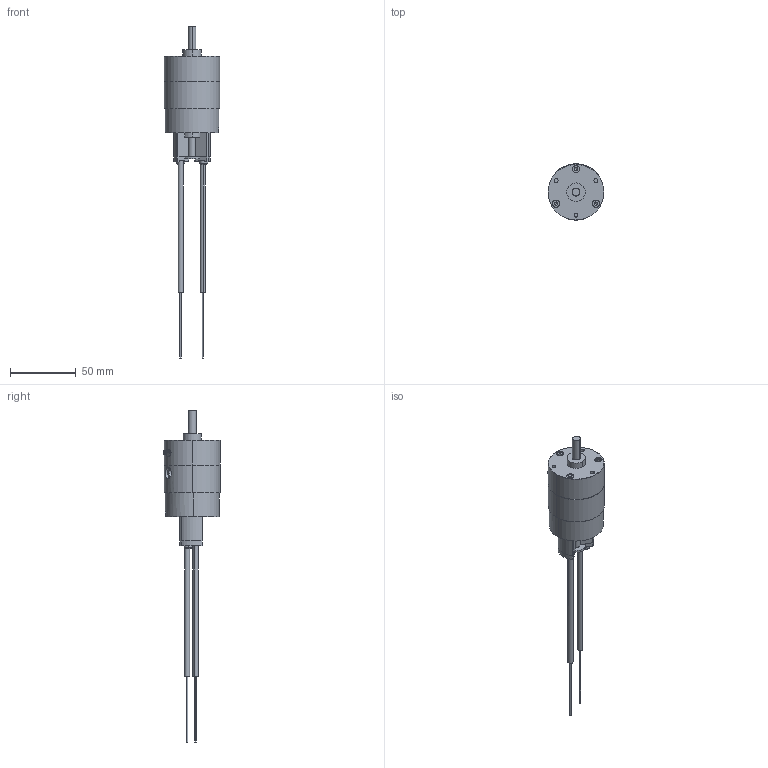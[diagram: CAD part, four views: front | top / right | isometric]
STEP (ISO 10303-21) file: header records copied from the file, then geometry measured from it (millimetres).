
FILE_DESCRIPTION (( 'STEP AP203' ), '1' );
FILE_NAME ('PROA10S-#-#-#-FR.STEP', '2016-02-04T06:59:48', ( 'Sam Lin' ), ( '' ), 'SwSTEP 2.0', 'SolidWorks 2013', '' );
FILE_SCHEMA (( 'CONFIG_CONTROL_DESIGN' ));
Length unit declared in the file: metre
Products named in the file (13): PROA10S-#-#-#-FR; PROA10S-#-# (6); PROA10S-#-# (2); mark-PROA10S; PROA10S-#-#-#-FR (2); PROA10S-#-#-#-FR (1); PROA10S-#-# (3); PROA10S-#-#-#-FR (3); PROA10S-#-# (4); PROA10S-#-#-#-FR (5); PROA10S-#-# (1); PROA10S-#-#-#-FR (7); PROA10S-#-# (5)
Assembly tree (16 placements, depth 2):
  PROA10S-#-#-#-FR
    PROA10S-#-# (3)
    PROA10S-#-# (4)
    PROA10S-#-# (1)
    PROA10S-#-# (5)
    PROA10S-#-# (6)
    PROA10S-#-# (2)
    mark-PROA10S
    PROA10S-#-#-#-FR (2)
    PROA10S-#-#-#-FR (1)  x2
    PROA10S-#-#-#-FR (3)  x2
    PROA10S-#-#-#-FR (5)  x2
    PROA10S-#-#-#-FR (7)  x2
Bounding box: 42.5 x 42.8 x 252.7 mm (x, y, z)
Volume: 72163.3 mm3; surface area: 31905.6 mm2
Topology: 23 solids, 23 shells, 511 faces, 1241 edges, 815 vertices
Faces by surface type: cylinder 242, plane 212, bspline 39, cone 18
Entity records: 18956 total; most frequent: CARTESIAN_POINT 6975, DIRECTION 2212, ORIENTED_EDGE 2138, EDGE_CURVE 1069, AXIS2_PLACEMENT_3D 854, VERTEX_POINT 707, EDGE_LOOP 524, LINE 504
